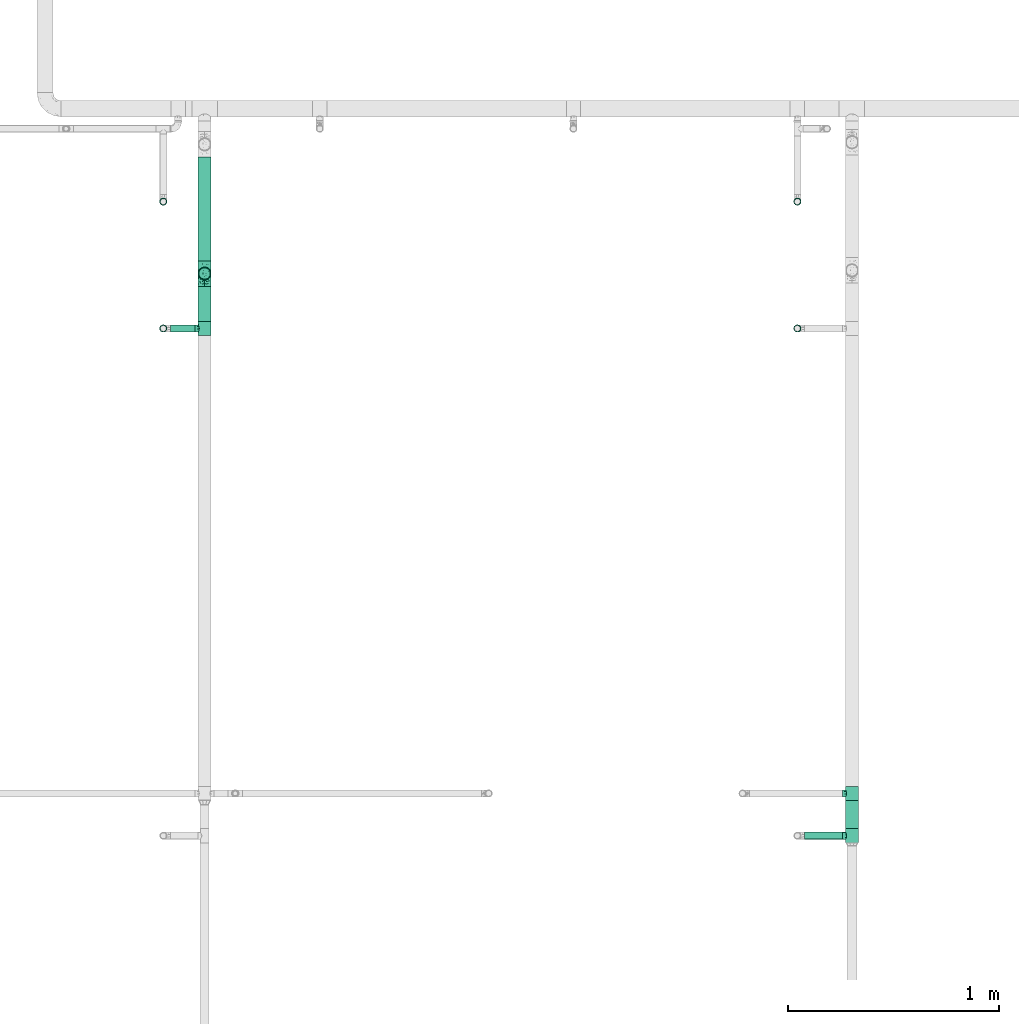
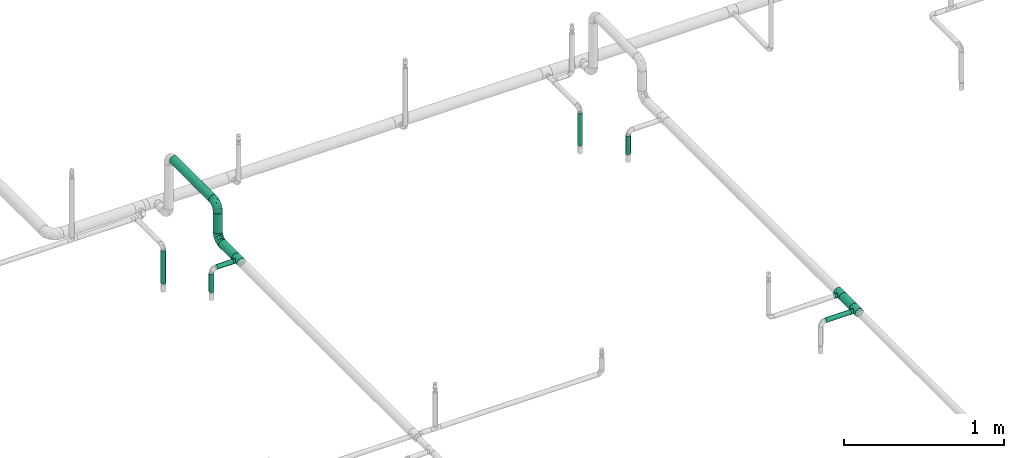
# One storey, part 14 of 157: 10 flow segments, 5 flow fittings.
"""IFC2X3 building model written with IfcOpenShell, lengths in millimetres."""

from ifc_helpers import new_model, entity, si_unit, converted_unit, derived_unit, direction, frame, origin_with_axes, origin_2d_with_axis, place, context, subcontext, project, spatial, hollow_circle, extrude, open_shell, surface_model, source, transform, mapped, type_object, element, save


model = new_model("IFC2X3")

# Units and contexts
model_context = context("Model", 3, precision=0.01, world=frame((0.0, 4.29681676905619e-09, 0.0)), true_north=direction((4.01073788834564e-13, 1.0)))
plan_context = context("Plan", 3, precision=0.01, world=frame((0.0, 4.29681676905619e-09, 0.0)), true_north=direction((4.01073788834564e-13, 1.0)))
body_context = subcontext(model_context, "Body", "Model", "MODEL_VIEW")
ifc_project = project(units=[converted_unit("PLANEANGLEUNIT", "DEGREE", entity("IfcPositiveLengthMeasure", 0.0174532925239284), si_unit("PLANEANGLEUNIT", "RADIAN"), dimensions=[0, 0, 0, 0, 0, 0, 0]), si_unit("AREAUNIT", "SQUARE_METRE"), si_unit("LENGTHUNIT", "METRE", prefix="MILLI"), si_unit("MASSUNIT", "GRAM", prefix="KILO"), si_unit("POWERUNIT", "WATT"), si_unit("PRESSUREUNIT", "PASCAL"), si_unit("FORCEUNIT", "NEWTON", prefix="KILO"), si_unit("ELECTRICCURRENTUNIT", "AMPERE"), si_unit("THERMODYNAMICTEMPERATUREUNIT", "DEGREE_CELSIUS"), si_unit("TIMEUNIT", "SECOND"), si_unit("VOLUMEUNIT", "CUBIC_METRE"), derived_unit("LINEARVELOCITYUNIT", [(si_unit("LENGTHUNIT", "METRE"), 1), (si_unit("TIMEUNIT", "SECOND"), -1)]), derived_unit("VOLUMETRICFLOWRATEUNIT", [(si_unit("VOLUMEUNIT", "CUBIC_METRE"), 1), (si_unit("TIMEUNIT", "SECOND"), -1)]), derived_unit("THERMALTRANSMITTANCEUNIT", [(si_unit("POWERUNIT", "WATT"), 1), (si_unit("THERMODYNAMICTEMPERATUREUNIT", "KELVIN"), -1), (si_unit("AREAUNIT", "SQUARE_METRE"), -1)])], contexts=[model_context, plan_context])

# Site, building, storey
site_placement = place(None, frame((0.0, -4.29681676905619e-09, 0.0), z_axis=(0.0, 0.0, 1.0), x_axis=(1.0, 0.0, 0.0)))
site = spatial("IfcSite", under=ifc_project, at=site_placement, CompositionType="ELEMENT")
building_placement = place(site_placement, frame((0.0, 4.29681676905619e-09, 0.0), z_axis=(0.0, 0.0, 1.0), x_axis=(1.0, 0.0, 0.0)))
building = spatial("IfcBuilding", under=site, at=building_placement, Name="mc-building", CompositionType="ELEMENT")
storey_placement = place(building_placement, frame((0.0, 0.0, 204000.0), z_axis=(0.0, 0.0, 1.0), x_axis=(1.0, 0.0, 0.0)))
storey = spatial("IfcBuildingStorey", under=building, at=storey_placement, Name="Nivå D", CompositionType="ELEMENT", Elevation=204000.0)

# Flow fittings
pipe_fitting_type_1 = type_object("IfcPipeFittingType", Name="magi_pipe_fe_elbow_short_001", PredefinedType="BEND")
shared_shape_1 = source(origin_with_axes(), body_context, "Body", "SurfaceModel", [
    surface_model("IfcShellBasedSurfaceModel", [(-60.4, 15.1, -26.15397), (-60.4, 7.81634, -29.17096), (-60.4, 0.0, -30.2), (-60.4, -21.35462, -21.35462), (-60.4, 26.15397, -15.1), (-60.4, 21.35462, -21.35462), (-60.4, 29.17096, -7.81634), (-60.4, -15.1, -26.15397), (-60.4, -7.81634, -29.17096), (-60.4, -26.15397, -15.1), (-60.4, -29.17096, -7.81634), (-60.4, -30.2, 0.0), (-60.4, -29.17096, 7.81634), (-60.4, 29.17096, 7.81634), (-60.4, -21.35462, 21.35462), (-60.4, 26.15397, 15.1), (-60.4, 21.35462, 21.35462), (-60.4, 7.81634, 29.17096), (-60.4, 15.1, 26.15397), (-60.4, -26.15397, 15.1), (-60.4, -7.81634, 29.17096), (-60.4, 0.0, 30.2), (-60.4, -15.1, 26.15397), (-60.4, 30.2, 0.0), (0.0, 60.4, -30.2), (-7.81634, 60.4, -29.17096), (-15.1, 60.4, -26.15397), (-26.15397, 60.4, -15.1), (-29.17096, 60.4, -7.81634), (-21.35462, 60.4, -21.35462), (29.17096, 60.4, -7.81634), (7.81634, 60.4, -29.17096), (21.35462, 60.4, -21.35462), (15.1, 60.4, -26.15397), (26.15397, 60.4, -15.1), (29.17096, 60.4, 7.81634), (30.2, 60.4, 0.0), (-29.17096, 60.4, 7.81634), (21.35462, 60.4, 21.35462), (-21.35462, 60.4, 21.35462), (-26.15397, 60.4, 15.1), (-15.1, 60.4, 26.15397), (-7.81634, 60.4, 29.17096), (26.15397, 60.4, 15.1), (15.1, 60.4, 26.15397), (0.0, 60.4, 30.2), (7.81634, 60.4, 29.17096), (-30.2, 60.4, 0.0), (-40.79975, -26.48639, 9.49143), (-44.2927, -23.46036, 16.95222), (-32.40306, -25.76572, 0.0), (-45.54716, -27.84754, 0.0), (-7.73382, -10.42985, 11.64553), (-2.102, -8.06735, 6.35117), (1.74449, -1.74448, 12.51332), (-46.13593, -4.00068, 29.68351), (-42.2898, 4.62925, 30.14853), (10.31662, 7.37496, 11.34434), (18.44156, 24.57514, 15.02148), (7.07276, 10.95732, 19.27498), (-30.06693, -0.27102, 29.27145), (-44.17726, -11.39441, 27.16031), (-23.4551, -7.13383, 25.24246), (-38.74025, -17.25266, 22.43475), (-27.059, -23.14697, 6.2131), (-19.77486, -19.33133, 0.0), (-10.95732, -7.07276, 19.27498), (-5.39458, 5.39458, 24.69106), (-29.52069, 48.20084, 13.12597), (-25.22813, 47.01796, 19.8404), (-11.27311, 52.093, 28.2877), (-4.13904, 45.17494, 30.12582), (-46.55352, 11.8443, 28.52822), (-7.88305, 20.22717, 29.65331), (-15.00576, 5.54025, 28.20072), (-3.0852, 16.31623, 27.75343), (-52.24998, 18.2886, 24.60768), (-10.49591, 29.69865, 30.14582), (-22.36958, 22.36958, 29.4662), (-17.98262, 13.19715, 30.04443), (-47.74519, 32.16745, 6.63994), (-48.21585, 29.51581, 13.12396), (-37.49729, 37.49729, 11.28901), (-47.20967, 25.1754, 19.81929), (17.25266, 38.74025, 22.43475), (-31.32046, 40.03273, 17.09289), (11.39441, 44.17725, 27.16031), (23.46036, 44.2927, 16.95222), (26.48639, 40.79975, 9.49143), (-7.14666, -12.89694, 0.0), (-14.66463, -16.61192, 7.82462), (4.00068, 46.13593, 29.68351), (-33.18602, 12.93608, 29.65955), (-29.63414, 7.40029, 30.18711), (19.33133, 19.77486, 0.0), (23.14697, 27.059, 6.2131), (16.61192, 14.66463, 7.82462), (27.84754, 45.54716, 0.0), (-32.10611, 20.49149, 27.93323), (-24.57514, -18.44156, 15.02148), (-21.89487, 39.03366, 25.38224), (-18.45005, 50.6405, 24.73297), (-31.78933, 48.71949, 6.47886), (-37.84917, 39.61073, 5.315), (13.91334, 24.32737, 20.46816), (7.13383, 23.4551, 25.24246), (-34.24603, 45.3, 0.0), (-27.95749, 31.89166, 24.81537), (-41.58677, 20.50028, 25.43151), (-0.46157, 0.46157, 17.84239), (-17.23338, 31.26213, 29.03145), (-24.05994, 29.23812, 27.47858), (-13.06094, 40.92174, 28.76128), (-31.83392, 33.72702, 21.39203), (-38.78737, 32.45032, 16.84022), (0.27102, 30.06693, 29.27145), (-24.21469, -13.23741, 21.05734), (8.23548, 2.19333, 6.02161), (25.76572, 32.40306, 0.0), (12.89694, 7.14666, 0.0), (-45.3, 34.24603, 0.0), (2.87514, -2.87514, 0.0), (-44.53432, 26.00869, -20.11577), (-48.18822, 29.5248, -13.12766), (-24.67192, -7.62159, -25.33714), (-26.22398, -0.37671, -28.72374), (-12.13397, -0.50536, -24.74577), (-47.80891, 3.81859, -30.10171), (-44.05719, -27.03585, -9.84546), (-37.94552, -22.39569, -16.35738), (-28.81663, -22.64668, -10.132), (-43.93799, 12.32789, -28.63778), (-33.27, 7.1392, -30.19348), (-26.0087, 44.53432, -20.11577), (-48.89164, 31.68872, -6.60822), (-18.95522, 47.41145, -24.9828), (-12.32789, 43.93799, -28.63778), (-38.42778, 38.42778, -7.21049), (18.04263, 43.69152, -22.80146), (10.42233, 38.24532, -26.85918), (11.90576, 51.00473, -27.48545), (-5.88381, -10.62327, -7.95335), (-5.9694, -7.83116, -13.76182), (3.24899, -2.56331, -7.96861), (-17.62229, 16.32998, -30.18286), (-28.62959, 17.86952, -29.30113), (-47.41145, 18.95522, -24.98279), (-50.84455, -24.04089, -17.54629), (-29.38053, 34.30665, -22.74674), (-27.91099, 27.91099, -26.51666), (-36.91219, 25.51094, -23.99233), (2.63361, -0.55507, -12.94367), (-43.69152, -18.04263, -22.80146), (22.39569, 37.94552, -16.35738), (27.03585, 44.05719, -9.84546), (22.64668, 28.81663, -10.132), (-51.00473, -11.90576, -27.48545), (3.80785, 44.49426, -29.64782), (-19.0921, -14.69952, -16.47487), (-22.5489, -12.31934, -21.1263), (-10.94772, -7.46239, -18.88204), (-32.95885, -13.78948, -23.71249), (-38.24532, -10.42233, -26.85918), (-44.49427, -3.80785, -29.64782), (-22.6301, 37.15314, -25.58239), (-31.68872, 48.89164, -6.60822), (-3.8186, 47.80891, -30.10171), (-10.66133, 10.66133, -28.51691), (0.37671, 26.22398, -28.72374), (1.27136, 14.18619, -25.18541), (-29.5248, 48.18821, -13.12766), (-36.27113, 36.27113, -14.88553), (24.04089, 50.84455, -17.54629), (17.50188, 24.2636, -16.21902), (9.73525, 11.44907, -16.75087), (12.31934, 22.5489, -21.1263), (6.24176, 25.78208, -26.38266), (-7.1392, 33.27, -30.19348), (-36.7166, 19.4356, -27.21946), (-18.00754, 29.38864, -29.15505), (-0.28629, 0.28629, -17.49884), (-13.98848, -16.88492, -5.19509), (15.48569, 15.00432, -11.24742), (16.88492, 13.98848, -5.19509), (3.55782, 9.20508, -21.18402), (-15.00432, -15.48569, -11.24742)], [open_shell([[[0, 1, 2]], [[0, 2, 3]], [[4, 0, 3]], [[5, 0, 4]], [[6, 4, 3]], [[7, 3, 8]], [[3, 2, 8]], [[9, 10, 3]], [[3, 10, 6]], [[11, 12, 10]], [[13, 6, 10]], [[13, 10, 14]], [[15, 13, 16]], [[17, 18, 16]], [[13, 17, 16]], [[17, 13, 14]], [[19, 14, 12]], [[12, 14, 10]], [[20, 21, 22]], [[17, 14, 22]], [[17, 22, 21]], [[13, 23, 6]], [[24, 25, 26]], [[24, 26, 27]], [[27, 28, 24]], [[27, 26, 29]], [[24, 28, 30]], [[31, 32, 33]], [[31, 24, 32]], [[32, 30, 34]], [[24, 30, 32]], [[30, 35, 36]], [[30, 28, 37]], [[38, 30, 37]], [[39, 37, 40]], [[39, 41, 42]], [[39, 42, 37]], [[38, 37, 42]], [[35, 38, 43]], [[30, 38, 35]], [[44, 45, 46]], [[44, 38, 42]], [[45, 44, 42]], [[28, 47, 37]], [[48, 49, 19]], [[50, 48, 51]], [[52, 53, 54]], [[12, 48, 19]], [[12, 51, 48]], [[21, 55, 56]], [[19, 49, 14]], [[57, 58, 59]], [[60, 61, 62]], [[63, 22, 14]], [[63, 61, 22]], [[64, 50, 65]], [[62, 66, 67]], [[40, 68, 69]], [[42, 70, 71]], [[17, 72, 18]], [[73, 74, 75]], [[18, 76, 16]], [[20, 55, 21]], [[77, 78, 79]], [[80, 81, 82]], [[15, 83, 81]], [[84, 38, 44]], [[23, 13, 80]], [[13, 15, 81]], [[68, 85, 69]], [[83, 15, 16]], [[21, 56, 17]], [[44, 86, 84]], [[16, 76, 83]], [[87, 58, 88]], [[40, 37, 68]], [[89, 90, 65]], [[45, 91, 46]], [[65, 90, 64]], [[45, 42, 71]], [[92, 93, 79]], [[88, 35, 43]], [[43, 38, 87]], [[87, 88, 43]], [[94, 95, 96]], [[88, 97, 35]], [[98, 72, 92]], [[49, 99, 63]], [[69, 100, 101]], [[82, 102, 103]], [[104, 105, 59]], [[106, 102, 47]], [[98, 107, 108]], [[102, 82, 68]], [[86, 44, 46]], [[69, 39, 40]], [[109, 54, 57]], [[110, 100, 111]], [[22, 61, 20]], [[101, 41, 39]], [[70, 42, 41]], [[112, 77, 71]], [[84, 86, 105]], [[96, 95, 58]], [[100, 69, 113]], [[72, 17, 56]], [[108, 113, 83]], [[81, 114, 82]], [[112, 110, 77]], [[91, 71, 115]], [[62, 61, 63]], [[55, 61, 60]], [[116, 99, 66]], [[74, 62, 67]], [[91, 86, 46]], [[105, 86, 115]], [[75, 105, 115]], [[109, 67, 66]], [[59, 105, 67]], [[48, 64, 99]], [[99, 49, 48]], [[63, 14, 49]], [[38, 84, 87]], [[58, 87, 84]], [[92, 72, 56]], [[76, 72, 108]], [[102, 68, 37]], [[82, 114, 85]], [[98, 111, 107]], [[112, 70, 101]], [[114, 83, 113]], [[82, 103, 80]], [[92, 79, 78]], [[115, 71, 77]], [[74, 79, 60]], [[77, 79, 73]], [[71, 91, 45]], [[86, 91, 115]], [[61, 55, 20]], [[56, 55, 60]], [[57, 54, 117]], [[104, 59, 58]], [[116, 66, 62]], [[52, 99, 90]], [[12, 11, 51]], [[97, 88, 118]], [[97, 36, 35]], [[53, 90, 89]], [[90, 53, 52]], [[94, 96, 119]], [[88, 95, 118]], [[117, 54, 53]], [[92, 56, 93]], [[98, 92, 78]], [[111, 98, 78]], [[72, 98, 108]], [[110, 111, 78]], [[107, 111, 100]], [[47, 102, 37]], [[102, 106, 103]], [[106, 120, 103]], [[103, 120, 80]], [[23, 80, 120]], [[13, 81, 80]], [[56, 60, 93]], [[60, 79, 93]], [[117, 121, 119]], [[121, 117, 53]], [[53, 89, 121]], [[119, 96, 117]], [[117, 96, 57]], [[77, 110, 78]], [[100, 110, 112]], [[83, 114, 81]], [[85, 114, 113]], [[69, 85, 113]], [[82, 85, 68]], [[109, 52, 54]], [[99, 52, 66]], [[69, 101, 39]], [[112, 101, 100]], [[100, 113, 107]], [[108, 107, 113]], [[62, 74, 60]], [[75, 74, 67]], [[105, 75, 67]], [[73, 75, 115]], [[77, 73, 115]], [[74, 73, 79]], [[99, 64, 90]], [[50, 64, 48]], [[118, 95, 94]], [[58, 95, 88]], [[58, 57, 96]], [[109, 57, 59]], [[72, 76, 18]], [[83, 76, 108]], [[101, 70, 41]], [[71, 70, 112]], [[58, 84, 104]], [[105, 104, 84]], [[67, 109, 59]], [[52, 109, 66]], [[62, 63, 116]], [[99, 116, 63]], [[122, 4, 123]], [[124, 125, 126]], [[2, 1, 127]], [[128, 129, 130]], [[127, 131, 132]], [[27, 29, 133]], [[120, 134, 23]], [[135, 26, 136]], [[123, 134, 137]], [[138, 139, 140]], [[122, 5, 4]], [[141, 142, 143]], [[144, 132, 145]], [[131, 0, 146]], [[128, 9, 147]], [[148, 149, 150]], [[128, 51, 10]], [[142, 151, 143]], [[152, 3, 7]], [[153, 154, 155]], [[156, 152, 7]], [[31, 157, 24]], [[158, 159, 160]], [[147, 9, 3]], [[129, 152, 161]], [[156, 7, 8]], [[162, 163, 125]], [[154, 34, 30]], [[120, 106, 137]], [[149, 148, 164]], [[47, 28, 165]], [[163, 8, 2]], [[4, 6, 123]], [[25, 166, 136]], [[167, 168, 169]], [[170, 133, 171]], [[25, 24, 166]], [[33, 32, 138]], [[157, 31, 140]], [[28, 27, 170]], [[32, 34, 172]], [[26, 135, 29]], [[132, 131, 145]], [[31, 33, 140]], [[173, 174, 175]], [[169, 168, 176]], [[25, 136, 26]], [[175, 138, 173]], [[168, 177, 157]], [[163, 162, 156]], [[153, 172, 154]], [[9, 128, 10]], [[154, 97, 118]], [[131, 178, 145]], [[0, 5, 146]], [[175, 139, 138]], [[155, 118, 94]], [[131, 1, 0]], [[146, 178, 131]], [[170, 137, 165]], [[149, 179, 145]], [[171, 133, 148]], [[160, 180, 142]], [[65, 181, 89]], [[170, 165, 28]], [[137, 171, 123]], [[172, 138, 32]], [[138, 153, 173]], [[168, 157, 139]], [[166, 157, 177]], [[176, 175, 169]], [[168, 167, 144]], [[154, 30, 97]], [[155, 182, 173]], [[162, 124, 161]], [[147, 152, 129]], [[127, 163, 2]], [[132, 144, 125]], [[132, 125, 163]], [[125, 167, 126]], [[129, 158, 130]], [[30, 36, 97]], [[143, 182, 183]], [[169, 126, 167]], [[5, 122, 146]], [[178, 150, 149]], [[136, 179, 164]], [[133, 29, 135]], [[123, 6, 134]], [[122, 123, 171]], [[133, 170, 27]], [[137, 170, 171]], [[184, 175, 174]], [[180, 160, 126]], [[126, 169, 184]], [[126, 159, 124]], [[51, 128, 50]], [[51, 11, 10]], [[131, 127, 1]], [[163, 127, 132]], [[157, 166, 24]], [[136, 166, 177]], [[164, 179, 149]], [[144, 167, 125]], [[179, 144, 145]], [[168, 144, 177]], [[136, 177, 179]], [[144, 179, 177]], [[141, 121, 89]], [[89, 181, 141]], [[154, 118, 155]], [[183, 155, 94]], [[143, 183, 119]], [[119, 183, 94]], [[155, 183, 182]], [[181, 130, 185]], [[50, 128, 130]], [[130, 181, 65]], [[50, 130, 65]], [[141, 181, 185]], [[142, 141, 185]], [[143, 121, 141]], [[158, 160, 142]], [[142, 180, 151]], [[158, 142, 185]], [[126, 160, 159]], [[130, 158, 185]], [[129, 159, 158]], [[23, 134, 6]], [[120, 137, 134]], [[137, 106, 165]], [[47, 165, 106]], [[174, 151, 180]], [[182, 143, 151]], [[150, 146, 122]], [[149, 145, 178]], [[146, 150, 178]], [[122, 171, 148]], [[148, 150, 122]], [[164, 133, 135]], [[133, 164, 148]], [[164, 135, 136]], [[138, 140, 33]], [[157, 140, 139]], [[154, 172, 34]], [[138, 172, 153]], [[163, 156, 8]], [[152, 156, 162]], [[152, 147, 3]], [[128, 147, 129]], [[155, 173, 153]], [[174, 173, 182]], [[151, 174, 182]], [[174, 180, 184]], [[126, 184, 180]], [[175, 184, 169]], [[168, 139, 176]], [[175, 176, 139]], [[161, 124, 159]], [[125, 124, 162]], [[129, 161, 159]], [[162, 161, 152]], [[143, 119, 121]]])]),
])
for number, where, z_axis, x_axis, name in (
    (1, (524695.35, 413259.71922, 3150.0), (1.0, 0.0, 0.0), (0.0, -1.0, 0.0), "magi_pipe_fe_elbow_short_001"),
    (2, (524695.35, 413259.71922, 2880.0), (-1.0, 0.0, 0.0), (0.0, 0.0, -1.0), "magi_pipe_fe_elbow_short_001"),
):
    element("IfcFlowFitting", number, at=place(storey_placement, frame(where, z_axis=z_axis, x_axis=x_axis)), inside=storey, type_object=pipe_fitting_type_1, Name=name, context=body_context, shape_type="MappedRepresentation", body=[
        mapped(shared_shape_1, transform((0.0, 0.0, 0.0), scale=1.0)),
    ])
pipe_fitting_type_2 = type_object("IfcPipeFittingType", Name="magi_pipe_fe_tee_centric_90_NOR", PredefinedType="JUNCTION")
shared_shape_2 = source(origin_with_axes(), body_context, "Body", "SurfaceModel", [
    surface_model("IfcShellBasedSurfaceModel", [(-33.8, 15.1, -26.15397), (-33.8, 7.81634, -29.17096), (-33.8, 0.0, -30.2), (-33.8, 29.17096, -7.81634), (-33.8, 26.15397, -15.1), (-33.8, 21.35462, -21.35462), (-33.8, 30.2, 0.0), (-33.8, -30.2, 0.0), (-33.8, -15.1, -26.15397), (-33.8, -21.35462, -21.35462), (-33.8, -7.81634, -29.17096), (-33.8, -26.15397, -15.1), (-33.8, -29.17096, -7.81634), (-33.8, 26.15397, 15.1), (-33.8, 29.17096, 7.81634), (-33.8, 15.1, 26.15397), (-33.8, -21.35462, 21.35462), (-33.8, 21.35462, 21.35462), (-33.8, 7.81634, 29.17096), (-33.8, -29.17096, 7.81634), (-33.8, -26.15397, 15.1), (-33.8, -7.81634, 29.17096), (-33.8, 0.0, 30.2), (-33.8, -15.1, 26.15397), (33.8, 29.17096, -7.81634), (33.8, 0.0, -30.2), (33.8, 7.81634, -29.17096), (33.8, 21.35462, -21.35462), (33.8, 15.1, -26.15397), (33.8, 26.15397, -15.1), (33.8, -30.2, 0.0), (33.8, -7.81634, -29.17096), (33.8, -21.35462, -21.35462), (33.8, -15.1, -26.15397), (33.8, -29.17096, -7.81634), (33.8, -26.15397, -15.1), (33.8, 30.2, 0.0), (33.8, 29.17096, 7.81634), (33.8, 26.15397, 15.1), (33.8, -29.17096, 7.81634), (33.8, 15.1, 26.15397), (33.8, 7.81634, 29.17096), (33.8, 21.35462, 21.35462), (33.8, -21.35462, 21.35462), (33.8, -26.15397, 15.1), (33.8, -15.1, 26.15397), (33.8, 0.0, 30.2), (33.8, -7.81634, 29.17096), (33.8, -29.68548, 3.90817), (15.846, -29.62306, 5.87488), (16.373, -29.91153, 2.93744), (12.91037, -28.16217, 10.90561), (2.99213, -25.2068, 16.63301), (16.9, -30.2, 0.0), (33.8, -27.66246, 11.45817), (8.50854, -26.43531, 14.60187), (-8.51006, -26.43579, 14.60099), (-33.8, -27.66246, 11.45817), (-12.91447, -28.16405, 10.90075), (-15.84655, -29.62335, 5.87341), (-33.8, -29.68548, 3.90817), (-16.37327, -29.91168, 2.93671), (-16.9, -30.2, 0.0), (-2.99705, -25.20739, 16.63213), (2.99213, -25.2068, -16.63301), (-16.37327, -29.91168, -2.93671), (8.50854, -26.43531, -14.60187), (33.8, -27.66246, -11.45817), (16.373, -29.91153, -2.93744), (-33.8, -29.68548, -3.90817), (-15.84655, -29.62335, -5.87341), (15.846, -29.62306, -5.87488), (12.91037, -28.16217, -10.90561), (33.8, -29.68548, -3.90817), (-2.99705, -25.20739, -16.63213), (-8.51006, -26.43579, -14.60099), (-12.91447, -28.16405, -10.90075), (-33.8, -27.66246, -11.45817), (4.37404, -45.3, -16.32415), (-16.9, -45.3, 0.0), (0.0, -45.3, -16.9), (14.63583, -45.3, -8.45), (8.45, -45.3, -14.63583), (16.32415, -45.3, -4.37404), (11.9501, -45.3, -11.9501), (-11.9501, -45.3, -11.9501), (-8.45, -45.3, -14.63583), (-4.37404, -45.3, -16.32415), (-14.63583, -45.3, -8.45), (-16.32415, -45.3, -4.37404), (16.9, -45.3, 0.0), (8.45, -45.3, 14.63583), (16.32415, -45.3, 4.37404), (14.63583, -45.3, 8.45), (-8.45, -45.3, 14.63583), (11.9501, -45.3, 11.9501), (4.37404, -45.3, 16.32415), (-16.32415, -45.3, 4.37404), (-11.9501, -45.3, 11.9501), (-14.63583, -45.3, 8.45), (0.0, -45.3, 16.9), (-4.37404, -45.3, 16.32415), (-5.75355, -25.82159, 15.61656), (-0.00246, -25.20709, 16.63257), (5.75034, -25.82105, 15.61744), (5.75034, -25.82105, -15.61744), (-0.00246, -25.20709, -16.63257), (-5.75355, -25.82159, -15.61656)], [open_shell([[[0, 1, 2]], [[3, 0, 2]], [[0, 3, 4]], [[5, 0, 4]], [[6, 2, 7]], [[8, 9, 10]], [[9, 2, 10]], [[11, 12, 9]], [[7, 9, 12]], [[9, 7, 2]], [[6, 3, 2]], [[13, 14, 6]], [[7, 15, 13]], [[7, 16, 15]], [[17, 13, 15]], [[18, 15, 16]], [[19, 20, 7]], [[7, 20, 16]], [[21, 22, 23]], [[16, 23, 22]], [[16, 22, 18]], [[7, 13, 6]], [[24, 25, 26]], [[27, 26, 28]], [[29, 24, 26]], [[29, 26, 27]], [[25, 24, 30]], [[31, 32, 33]], [[32, 31, 34]], [[32, 34, 35]], [[34, 31, 30]], [[31, 25, 30]], [[24, 36, 30]], [[36, 37, 38]], [[39, 36, 38]], [[40, 41, 38]], [[40, 38, 42]], [[43, 38, 41]], [[39, 43, 44]], [[39, 38, 43]], [[45, 46, 47]], [[46, 45, 43]], [[41, 46, 43]], [[36, 39, 30]], [[48, 39, 49]], [[30, 48, 50]], [[39, 51, 49]], [[44, 43, 52]], [[30, 50, 53]], [[51, 54, 55]], [[52, 55, 44]], [[48, 49, 50]], [[43, 16, 52]], [[55, 54, 44]], [[56, 57, 58]], [[59, 60, 61]], [[62, 61, 7]], [[59, 58, 19]], [[56, 63, 20]], [[51, 39, 54]], [[20, 57, 56]], [[20, 63, 16]], [[58, 57, 19]], [[63, 52, 16]], [[7, 61, 60]], [[59, 19, 60]], [[43, 23, 16]], [[22, 47, 46]], [[21, 45, 47]], [[18, 46, 41]], [[38, 37, 14]], [[17, 40, 42]], [[13, 42, 38]], [[41, 40, 15]], [[6, 37, 36]], [[23, 45, 21]], [[21, 47, 22]], [[18, 22, 46]], [[41, 15, 18]], [[15, 40, 17]], [[13, 17, 42]], [[14, 13, 38]], [[37, 6, 14]], [[45, 23, 43]], [[4, 24, 29]], [[3, 36, 24]], [[5, 29, 27]], [[25, 31, 10]], [[1, 28, 26]], [[2, 26, 25]], [[27, 28, 0]], [[8, 31, 33]], [[6, 36, 3]], [[3, 24, 4]], [[5, 4, 29]], [[27, 0, 5]], [[0, 28, 1]], [[2, 1, 26]], [[10, 2, 25]], [[31, 8, 10]], [[33, 9, 8]], [[32, 35, 64]], [[7, 65, 62]], [[66, 64, 35]], [[67, 66, 35]], [[32, 64, 9]], [[53, 68, 30]], [[69, 70, 65]], [[71, 72, 34]], [[71, 73, 68]], [[66, 67, 72]], [[34, 72, 67]], [[74, 75, 11]], [[76, 12, 77]], [[11, 9, 74]], [[76, 77, 75]], [[74, 9, 64]], [[76, 70, 12]], [[71, 34, 73]], [[70, 69, 12]], [[65, 7, 69]], [[30, 68, 73]], [[77, 11, 75]], [[32, 9, 33]], [[78, 79, 80]], [[81, 78, 82]], [[81, 83, 78]], [[81, 82, 84]], [[79, 78, 83]], [[80, 85, 86]], [[86, 87, 80]], [[88, 79, 89]], [[85, 80, 88]], [[79, 88, 80]], [[83, 90, 79]], [[91, 90, 92]], [[91, 92, 93]], [[94, 79, 91]], [[91, 93, 95]], [[94, 91, 96]], [[97, 98, 99]], [[98, 97, 94]], [[94, 100, 101]], [[97, 79, 94]], [[96, 100, 94]], [[91, 79, 90]], [[97, 61, 79]], [[58, 99, 98]], [[97, 99, 59]], [[98, 94, 56]], [[61, 62, 79]], [[59, 99, 58]], [[101, 63, 102]], [[56, 58, 98]], [[100, 52, 103]], [[91, 104, 96]], [[100, 96, 52]], [[50, 49, 92]], [[50, 90, 53]], [[104, 91, 55]], [[102, 94, 101]], [[102, 56, 94]], [[100, 63, 101]], [[97, 59, 61]], [[55, 91, 95]], [[95, 51, 55]], [[52, 96, 104]], [[92, 49, 93]], [[90, 50, 92]], [[93, 49, 51]], [[93, 51, 95]], [[103, 63, 100]], [[83, 68, 90]], [[72, 81, 84]], [[83, 81, 71]], [[84, 82, 66]], [[68, 53, 90]], [[71, 81, 72]], [[78, 64, 105]], [[66, 72, 84]], [[80, 74, 106]], [[86, 107, 87]], [[65, 70, 89]], [[105, 82, 78]], [[105, 66, 82]], [[75, 86, 85]], [[83, 71, 68]], [[70, 88, 89]], [[65, 79, 62]], [[85, 88, 76]], [[80, 64, 78]], [[87, 107, 74]], [[74, 80, 87]], [[75, 107, 86]], [[75, 85, 76]], [[76, 88, 70]], [[79, 65, 89]], [[106, 64, 80]]])]),
])
for number, where, z_axis, x_axis, name in (
    (3, (524695.35, 413000.0, 2880.0), (0.0, 0.0, -1.0), (0.0, 1.0, 0.0), "magi_pipe_fe_tee_centric_90_NOR"),
    (4, (527758.2357, 410600.0, 2880.0), (0.0, 0.0, -1.0), (0.0, 1.0, 0.0), "magi_pipe_fe_tee_centric_90_NOR"),
    (5, (527758.2357, 410800.00002, 2880.0), (0.0, 0.0, -1.0), (0.0, 1.0, 0.0), "magi_pipe_fe_tee_centric_90_NOR"),
):
    element("IfcFlowFitting", number, at=place(storey_placement, frame(where, z_axis=z_axis, x_axis=x_axis)), inside=storey, type_object=pipe_fitting_type_2, Name=name, context=body_context, shape_type="MappedRepresentation", body=[
        mapped(shared_shape_2, transform((0.0, 0.0, 0.0), scale=1.0)),
    ])

# Flow segments
pipe_segment_type = type_object("IfcPipeSegmentType", Name="Stålrør normaltykke", PredefinedType="RIGIDSEGMENT")
shared_shape_3 = source(origin_with_axes(), body_context, "Body", "SweptSolid", [
    extrude(hollow_circle(Radius=16.9, WallThickness=2.0, at=origin_2d_with_axis()), frame((0.0, 0.0, 0.0), z_axis=(1.0, 0.0, 0.0), x_axis=(0.0, 1.0, 0.0)), (0.0, 0.0, 1.0), 247.3),
])
flow_segment_1_placement = place(storey_placement, frame((524500.0, 413600.0, 2409.35200000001), z_axis=(0.0, 1.0, 0.0), x_axis=(0.0, 0.0, 1.0)))
element("IfcFlowSegment", 6, at=flow_segment_1_placement, inside=storey, type_object=pipe_segment_type, Name="Stålrør normaltykke", context=body_context, shape_type="MappedRepresentation", body=[
    mapped(shared_shape_3, transform((0.0, 0.0, 0.0), scale=1.0)),
])
shared_shape_4 = source(origin_with_axes(), body_context, "Body", "SweptSolid", [
    extrude(hollow_circle(Radius=16.9, WallThickness=2.0, at=origin_2d_with_axis()), frame((0.0, 0.0, 0.0), z_axis=(1.0, 0.0, 0.0), x_axis=(0.0, 1.0, 0.0)), (0.0, 0.0, 1.0), 136.8),
])
for number, where, z_axis, x_axis in (
    (7, (524500.0, 413000.0, 2709.35200000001), (0.0, -1.0, 0.0), (0.0, 0.0, 1.0)),
    (8, (527500.0, 413000.0, 2709.35200000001), (0.0, -1.0, 0.0), (0.0, 0.0, 1.0)),
):
    element("IfcFlowSegment", number, at=place(storey_placement, frame(where, z_axis=z_axis, x_axis=x_axis)), inside=storey, type_object=pipe_segment_type, Name="Stålrør normaltykke", context=body_context, shape_type="MappedRepresentation", body=[
        mapped(shared_shape_4, transform((0.0, 0.0, 0.0), scale=1.0)),
    ])
shared_shape_5 = source(origin_with_axes(), body_context, "Body", "SweptSolid", [
    extrude(hollow_circle(Radius=16.9, WallThickness=2.0, at=origin_2d_with_axis()), frame((0.0, 0.0, 0.0), z_axis=(1.0, 0.0, 0.0), x_axis=(0.0, 1.0, 0.0)), (0.0, 0.0, 1.0), 179.1),
])
flow_segment_2_placement = place(storey_placement, frame((527533.8, 410600.0, 2880.0), z_axis=(0.0, 0.0, 1.0), x_axis=(1.0, 0.0, 0.0)))
element("IfcFlowSegment", 9, at=flow_segment_2_placement, inside=storey, type_object=pipe_segment_type, Name="Stålrør normaltykke", context=body_context, shape_type="MappedRepresentation", body=[
    mapped(shared_shape_5, transform((0.0, 0.0, 0.0), scale=1.0)),
])
shared_shape_6 = source(origin_with_axes(), body_context, "Body", "SweptSolid", [
    extrude(hollow_circle(Radius=16.9, WallThickness=2.0, at=origin_2d_with_axis()), frame((0.0, 0.0, 0.0), z_axis=(1.0, 0.0, 0.0), x_axis=(0.0, 1.0, 0.0)), (0.0, 0.0, 1.0), 243.8),
])
flow_segment_3_placement = place(storey_placement, frame((527500.0, 413600.0, 2412.39999999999), z_axis=(0.0, 1.0, 0.0), x_axis=(-8.1999999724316e-05, 0.0, 0.999999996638)))
element("IfcFlowSegment", 10, at=flow_segment_3_placement, inside=storey, type_object=pipe_segment_type, Name="Stålrør normaltykke", context=body_context, shape_type="MappedRepresentation", body=[
    mapped(shared_shape_6, transform((0.0, 0.0, 0.0), scale=1.0)),
])
shared_shape_7 = source(origin_with_axes(), body_context, "Body", "SweptSolid", [
    extrude(hollow_circle(Radius=16.9, WallThickness=2.0, at=origin_2d_with_axis()), frame((0.0, 0.0, 0.0), z_axis=(1.0, 0.0, 0.0), x_axis=(0.0, 1.0, 0.0)), (0.0, 0.0, 1.0), 116.3),
])
flow_segment_4_placement = place(storey_placement, frame((524533.8, 413000.0, 2880.0), z_axis=(0.0, 0.0, 1.0), x_axis=(1.0, 0.0, 0.0)))
element("IfcFlowSegment", 11, at=flow_segment_4_placement, inside=storey, type_object=pipe_segment_type, Name="Stålrør normaltykke", context=body_context, shape_type="MappedRepresentation", body=[
    mapped(shared_shape_7, transform((0.0, 0.0, 0.0), scale=1.0)),
])
shared_shape_8 = source(origin_with_axes(), body_context, "Body", "SweptSolid", [
    extrude(hollow_circle(Radius=30.1, WallThickness=2.0, at=origin_2d_with_axis()), frame((0.0, 0.0, 0.0), z_axis=(1.0, 0.0, 0.0), x_axis=(0.0, 1.0, 0.0)), (0.0, 0.0, 1.0), 490.4),
])
flow_segment_5_placement = place(storey_placement, frame((524695.35, 413810.48552, 3150.0), z_axis=(0.0, 0.0, 1.0), x_axis=(0.0, -1.0, 0.0)))
element("IfcFlowSegment", 12, at=flow_segment_5_placement, inside=storey, type_object=pipe_segment_type, Name="Stålrør normaltykke", context=body_context, shape_type="MappedRepresentation", body=[
    mapped(shared_shape_8, transform((0.0, 0.0, 0.0), scale=1.0)),
])
shared_shape_9 = source(origin_with_axes(), body_context, "Body", "SweptSolid", [
    extrude(hollow_circle(Radius=30.1, WallThickness=2.0, at=origin_2d_with_axis()), frame((0.0, 0.0, 0.0), z_axis=(1.0, 0.0, 0.0), x_axis=(0.0, 1.0, 0.0)), (0.0, 0.0, 1.0), 149.2),
])
flow_segment_6_placement = place(storey_placement, frame((524695.35, 413259.71922, 3089.60000000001), z_axis=(-1.0, 0.0, 0.0), x_axis=(0.0, 0.0, -1.0)))
element("IfcFlowSegment", 13, at=flow_segment_6_placement, inside=storey, type_object=pipe_segment_type, Name="Stålrør normaltykke", context=body_context, shape_type="MappedRepresentation", body=[
    mapped(shared_shape_9, transform((0.0, 0.0, 0.0), scale=1.0)),
])
shared_shape_10 = source(origin_with_axes(), body_context, "Body", "SweptSolid", [
    extrude(hollow_circle(Radius=30.1, WallThickness=2.0, at=origin_2d_with_axis()), frame((0.0, 0.0, 0.0), z_axis=(1.0, 0.0, 0.0), x_axis=(0.0, 1.0, 0.0)), (0.0, 0.0, 1.0), 165.5),
])
flow_segment_7_placement = place(storey_placement, frame((524695.35, 413199.31922, 2880.0), z_axis=(0.0, 0.0, 1.0), x_axis=(0.0, -1.0, 0.0)))
element("IfcFlowSegment", 14, at=flow_segment_7_placement, inside=storey, type_object=pipe_segment_type, Name="Stålrør normaltykke", context=body_context, shape_type="MappedRepresentation", body=[
    mapped(shared_shape_10, transform((0.0, 0.0, 0.0), scale=1.0)),
])
shared_shape_11 = source(origin_with_axes(), body_context, "Body", "SweptSolid", [
    extrude(hollow_circle(Radius=30.1, WallThickness=2.0, at=origin_2d_with_axis()), frame((0.0, 0.0, 0.0), z_axis=(1.0, 0.0, 0.0), x_axis=(0.0, 1.0, 0.0)), (0.0, 0.0, 1.0), 132.4),
])
flow_segment_8_placement = place(storey_placement, frame((527758.2357, 410766.20002, 2880.0), z_axis=(0.0, 0.0, 1.0), x_axis=(0.0, -1.0, 0.0)))
element("IfcFlowSegment", 15, at=flow_segment_8_placement, inside=storey, type_object=pipe_segment_type, Name="Stålrør normaltykke", context=body_context, shape_type="MappedRepresentation", body=[
    mapped(shared_shape_11, transform((0.0, 0.0, 0.0), scale=1.0)),
])

save(model, "model.ifc")
